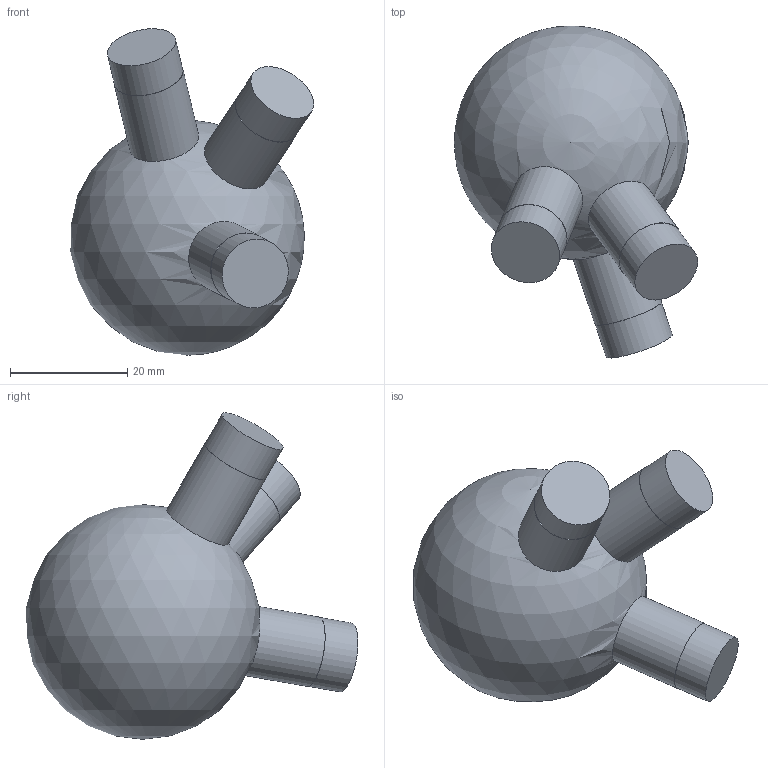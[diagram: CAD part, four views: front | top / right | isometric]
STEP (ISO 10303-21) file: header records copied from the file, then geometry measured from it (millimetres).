
FILE_DESCRIPTION(('Open CASCADE Model'),'2;1');
FILE_NAME('Open CASCADE Shape Model','2026-10-21T12:47:57',('Author'),( 'Open CASCADE'),'Open CASCADE STEP processor 7.9','Open CASCADE 7.9' ,'Unknown');
FILE_SCHEMA(('AUTOMOTIVE_DESIGN { 1 0 10303 214 1 1 1 1 }'));
Length unit declared in the file: millimetre
Products named in the file (1): Open CASCADE STEP translator 7.9 40
Bounding box: 41.44 x 56.55 x 55.63 mm (x, y, z)
Volume: 39541.1 mm3; surface area: 7086.9 mm2
Topology: 1 solids, 1 shells, 13 faces, 21 edges, 14 vertices
Faces by surface type: cylinder 6, plane 6, sphere 1
Full cylindrical faces by diameter (mm): 11.9 x3, 12 x3
Entity records: 732 total; most frequent: CARTESIAN_POINT 287, DIRECTION 91, ORIENTED_EDGE 36, PCURVE 36, DEFINITIONAL_REPRESENTATION 36, LINE 30, VECTOR 30, AXIS2_PLACEMENT_3D 26
